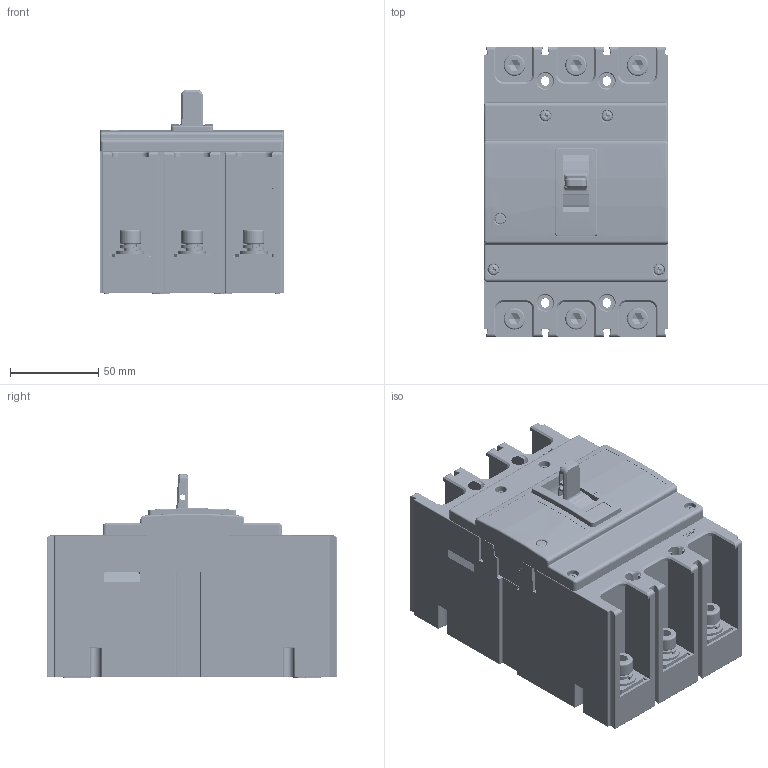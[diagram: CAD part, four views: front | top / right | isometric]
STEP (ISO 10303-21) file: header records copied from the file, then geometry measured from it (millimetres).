
FILE_DESCRIPTION(/* description */ (''),/* implementation_level */ '2;1');
FILE_NAME(/* name */ 'CMM-250M-3P-Drawing-3D.stp',/* time_stamp */ '2025-07-07T18:01:28-03:00',/* author */ ('guilh'),/* organization */ (''),/* preprocessor_version */ 'ST-DEVELOPER v20',/* originating_system */ 'Autodesk Inventor 2024',/* authorisation */ '');
FILE_SCHEMA (('AUTOMOTIVE_DESIGN { 1 0 10303 214 3 1 1 }'));
Products named in the file (25): YCM8-250M-3P-Drawing-3D; YCM8-250M-3P-Drawing-3D.sldasm-Part-1; YCM8-250M-3P-Drawing-3D.sldasm-Part-2; YCM8-250M-3P-Drawing-3D.sldasm-Part-3; YCM8-250M-3P-Drawing-3D.sldasm-Part-4; YCM8-250M-3P-Drawing-3D.sldasm-Part-5; YCM8-250M-3P-Drawing-3D.sldasm-Part-6; YCM8-250M-3P-Drawing-3D.sldasm-Part-7; YCM8-250M-3P-Drawing-3D.sldasm-Part-8; YCM8-250M-3P-Drawing-3D.sldasm-Part-9; YCM8-250M-3P-Drawing-3D.sldasm-Part-10; YCM8-250M-3P-Drawing-3D.sldasm-Part-11; YCM8-250M-3P-Drawing-3D.sldasm-Part-12; YCM8-250M-3P-Drawing-3D.sldasm-Part-13; YCM8-250M-3P-Drawing-3D.sldasm-Part-14; YCM8-250M-3P-Drawing-3D.sldasm-Part-15; YCM8-250M-3P-Drawing-3D.sldasm-Part-16; YCM8-250M-3P-Drawing-3D.sldasm-Part-17; YCM8-250M-3P-Drawing-3D.sldasm-Part-18; YCM8-250M-3P-Drawing-3D.sldasm-Part-19; YCM8-250M-3P-Drawing-3D.sldasm-Part-20; YCM8-250M-3P-Drawing-3D.sldasm-Part-21; YCM8-250M-3P-Drawing-3D.sldasm-Part-22; ÉÏÍ¼250.sldasm-Part-26; YCM8-250M-3P-Drawing-3D.sldasm-Part-23
Assembly tree (58 placements, depth 2):
  YCM8-250M-3P-Drawing-3D
    YCM8-250M-3P-Drawing-3D.sldasm-Part-1  x6
    YCM8-250M-3P-Drawing-3D.sldasm-Part-2  x6
    YCM8-250M-3P-Drawing-3D.sldasm-Part-3  x6
    YCM8-250M-3P-Drawing-3D.sldasm-Part-4  x2
    YCM8-250M-3P-Drawing-3D.sldasm-Part-5  x2
    YCM8-250M-3P-Drawing-3D.sldasm-Part-6  x8
    YCM8-250M-3P-Drawing-3D.sldasm-Part-7
    YCM8-250M-3P-Drawing-3D.sldasm-Part-8
    YCM8-250M-3P-Drawing-3D.sldasm-Part-9
    YCM8-250M-3P-Drawing-3D.sldasm-Part-10
    YCM8-250M-3P-Drawing-3D.sldasm-Part-11
    YCM8-250M-3P-Drawing-3D.sldasm-Part-12
    YCM8-250M-3P-Drawing-3D.sldasm-Part-13
    YCM8-250M-3P-Drawing-3D.sldasm-Part-14
    YCM8-250M-3P-Drawing-3D.sldasm-Part-15
    YCM8-250M-3P-Drawing-3D.sldasm-Part-16
    YCM8-250M-3P-Drawing-3D.sldasm-Part-17  x3
    YCM8-250M-3P-Drawing-3D.sldasm-Part-18  x3
    YCM8-250M-3P-Drawing-3D.sldasm-Part-19  x3
    YCM8-250M-3P-Drawing-3D.sldasm-Part-20
    YCM8-250M-3P-Drawing-3D.sldasm-Part-21
    YCM8-250M-3P-Drawing-3D.sldasm-Part-22
    ÉÏÍ¼250.sldasm-Part-26  x3
    YCM8-250M-3P-Drawing-3D.sldasm-Part-23  x3
Bounding box: 105 x 165 x 116 mm (x, y, z)
Volume: 524917.9 mm3; surface area: 352407.6 mm2
Topology: 58 solids, 58 shells, 4610 faces, 12666 edges, 8221 vertices
Faces by surface type: plane 2685, cylinder 1423, bspline 213, torus 147, cone 82, sphere 60
Full cylindrical faces by diameter (mm): 2 x1, 2.5 x100, 2.659 x8, 2.8 x12, 3 x110, 3.2 x16, 3.3 x5, 3.4 x1, 3.5 x2, 3.8 x15, 4 x10, 4.2 x2, 4.3 x2, 4.5 x8, 4.6 x16, 5.2 x3, 5.3 x1, 5.5 x2, 5.8 x1, 5.85 x4, 6 x3, 6.3 x2, 6.5 x8, 6.75 x54, 7 x17, 7.4 x2, 7.5 x6, 8 x58, 8.05 x2, 8.5 x6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
Entity records: 164138 total; most frequent: CARTESIAN_POINT 67926, ORIENTED_EDGE 20382, DIRECTION 19001, EDGE_CURVE 10191, LINE 7353, VECTOR 7353, VERTEX_POINT 6619, AXIS2_PLACEMENT_3D 5824
